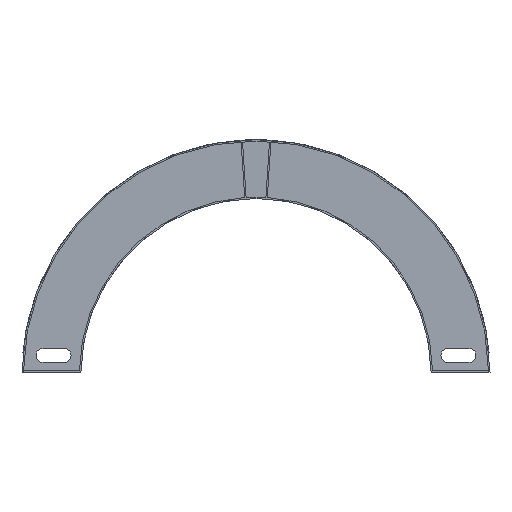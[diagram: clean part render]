
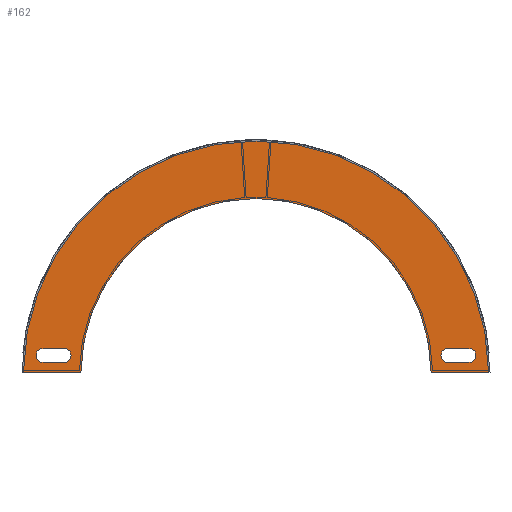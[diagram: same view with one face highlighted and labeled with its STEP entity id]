
A CAD part, front view. The second image highlights one B-rep face of the part: STEP entity #162.
In plain terms, the highlighted planar face has unit normal (0, -1, 0).
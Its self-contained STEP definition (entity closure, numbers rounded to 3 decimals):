
#104=PLANE('',#1157);
#147=FACE_BOUND('',#283,.T.);
#148=FACE_BOUND('',#284,.T.);
#149=FACE_BOUND('',#285,.T.);
#162=ADVANCED_FACE('',(#147,#148,#149),#104,.F.);
#283=EDGE_LOOP('',(#594,#595,#596,#597));
#284=EDGE_LOOP('',(#598,#599,#600,#601));
#285=EDGE_LOOP('',(#602,#603,#604,#605));
#368=LINE('',#1651,#464);
#369=LINE('',#1655,#465);
#370=LINE('',#1659,#466);
#371=LINE('',#1663,#467);
#372=LINE('',#1667,#468);
#373=LINE('',#1668,#469);
#464=VECTOR('',#1328,1.);
#465=VECTOR('',#1331,1.);
#466=VECTOR('',#1334,1.);
#467=VECTOR('',#1337,1.);
#468=VECTOR('',#1340,1.);
#469=VECTOR('',#1341,1.);
#594=ORIENTED_EDGE('',*,*,#982,.T.);
#595=ORIENTED_EDGE('',*,*,#983,.T.);
#596=ORIENTED_EDGE('',*,*,#984,.T.);
#597=ORIENTED_EDGE('',*,*,#985,.T.);
#598=ORIENTED_EDGE('',*,*,#986,.F.);
#599=ORIENTED_EDGE('',*,*,#987,.F.);
#600=ORIENTED_EDGE('',*,*,#988,.F.);
#601=ORIENTED_EDGE('',*,*,#989,.F.);
#602=ORIENTED_EDGE('',*,*,#990,.F.);
#603=ORIENTED_EDGE('',*,*,#991,.T.);
#604=ORIENTED_EDGE('',*,*,#954,.F.);
#605=ORIENTED_EDGE('',*,*,#992,.T.);
#854=VERTEX_POINT('',#1586);
#857=VERTEX_POINT('',#1591);
#882=VERTEX_POINT('',#1649);
#883=VERTEX_POINT('',#1650);
#884=VERTEX_POINT('',#1652);
#885=VERTEX_POINT('',#1654);
#886=VERTEX_POINT('',#1657);
#887=VERTEX_POINT('',#1658);
#888=VERTEX_POINT('',#1660);
#889=VERTEX_POINT('',#1662);
#890=VERTEX_POINT('',#1665);
#891=VERTEX_POINT('',#1666);
#954=EDGE_CURVE('',#857,#854,#1083,.T.);
#982=EDGE_CURVE('',#882,#883,#1096,.T.);
#983=EDGE_CURVE('',#883,#884,#368,.T.);
#984=EDGE_CURVE('',#884,#885,#1097,.T.);
#985=EDGE_CURVE('',#885,#882,#369,.T.);
#986=EDGE_CURVE('',#886,#887,#1098,.T.);
#987=EDGE_CURVE('',#888,#886,#370,.T.);
#988=EDGE_CURVE('',#889,#888,#1099,.T.);
#989=EDGE_CURVE('',#887,#889,#371,.T.);
#990=EDGE_CURVE('',#890,#891,#1100,.T.);
#991=EDGE_CURVE('',#890,#854,#372,.T.);
#992=EDGE_CURVE('',#857,#891,#373,.T.);
#1083=CIRCLE('',#1135,62.5);
#1096=CIRCLE('',#1152,2.5);
#1097=CIRCLE('',#1153,2.5);
#1098=CIRCLE('',#1154,2.5);
#1099=CIRCLE('',#1155,2.5);
#1100=CIRCLE('',#1156,83.);
#1135=AXIS2_PLACEMENT_3D('',#1592,#1277,#1278);
#1152=AXIS2_PLACEMENT_3D('',#1648,#1326,#1327);
#1153=AXIS2_PLACEMENT_3D('',#1653,#1329,#1330);
#1154=AXIS2_PLACEMENT_3D('',#1656,#1332,#1333);
#1155=AXIS2_PLACEMENT_3D('',#1661,#1335,#1336);
#1156=AXIS2_PLACEMENT_3D('',#1664,#1338,#1339);
#1157=AXIS2_PLACEMENT_3D('',#1669,#1342,#1343);
#1277=DIRECTION('',(0.,-1.,0.));
#1278=DIRECTION('',(1.,0.,0.));
#1326=DIRECTION('',(0.,1.,0.));
#1327=DIRECTION('',(0.,0.,1.));
#1328=DIRECTION('',(1.,0.,0.));
#1329=DIRECTION('',(0.,1.,0.));
#1330=DIRECTION('',(0.,0.,1.));
#1331=DIRECTION('',(-1.,0.,0.));
#1332=DIRECTION('',(0.,-1.,0.));
#1333=DIRECTION('',(0.,0.,1.));
#1334=DIRECTION('',(-1.,0.,0.));
#1335=DIRECTION('',(0.,-1.,0.));
#1336=DIRECTION('',(0.,0.,1.));
#1337=DIRECTION('',(1.,0.,0.));
#1338=DIRECTION('',(0.,1.,0.));
#1339=DIRECTION('',(0.,0.,-1.));
#1340=DIRECTION('',(1.,0.,0.));
#1341=DIRECTION('',(1.,0.,0.));
#1342=DIRECTION('',(0.,1.,0.));
#1343=DIRECTION('',(0.,0.,1.));
#1586=CARTESIAN_POINT('',(-62.498,-169.5,0.5));
#1591=CARTESIAN_POINT('',(62.498,-169.5,0.5));
#1592=CARTESIAN_POINT('',(0.,-169.5,0.));
#1648=CARTESIAN_POINT('',(68.5,-169.5,6.5));
#1649=CARTESIAN_POINT('',(68.5,-169.5,4.));
#1650=CARTESIAN_POINT('',(68.5,-169.5,9.));
#1651=CARTESIAN_POINT('',(76.,-169.5,9.));
#1652=CARTESIAN_POINT('',(76.,-169.5,9.));
#1653=CARTESIAN_POINT('',(76.,-169.5,6.5));
#1654=CARTESIAN_POINT('',(76.,-169.5,4.));
#1655=CARTESIAN_POINT('',(68.5,-169.5,4.));
#1656=CARTESIAN_POINT('',(-76.,-169.5,6.5));
#1657=CARTESIAN_POINT('',(-76.,-169.5,9.));
#1658=CARTESIAN_POINT('',(-76.,-169.5,4.));
#1659=CARTESIAN_POINT('',(-76.,-169.5,9.));
#1660=CARTESIAN_POINT('',(-68.5,-169.5,9.));
#1661=CARTESIAN_POINT('',(-68.5,-169.5,6.5));
#1662=CARTESIAN_POINT('',(-68.5,-169.5,4.));
#1663=CARTESIAN_POINT('',(-68.5,-169.5,4.));
#1664=CARTESIAN_POINT('',(0.,-169.5,0.));
#1665=CARTESIAN_POINT('',(-82.998,-169.5,0.5));
#1666=CARTESIAN_POINT('',(82.998,-169.5,0.5));
#1667=CARTESIAN_POINT('',(0.,-169.5,0.5));
#1668=CARTESIAN_POINT('',(0.,-169.5,0.5));
#1669=CARTESIAN_POINT('',(0.,-169.5,0.));
